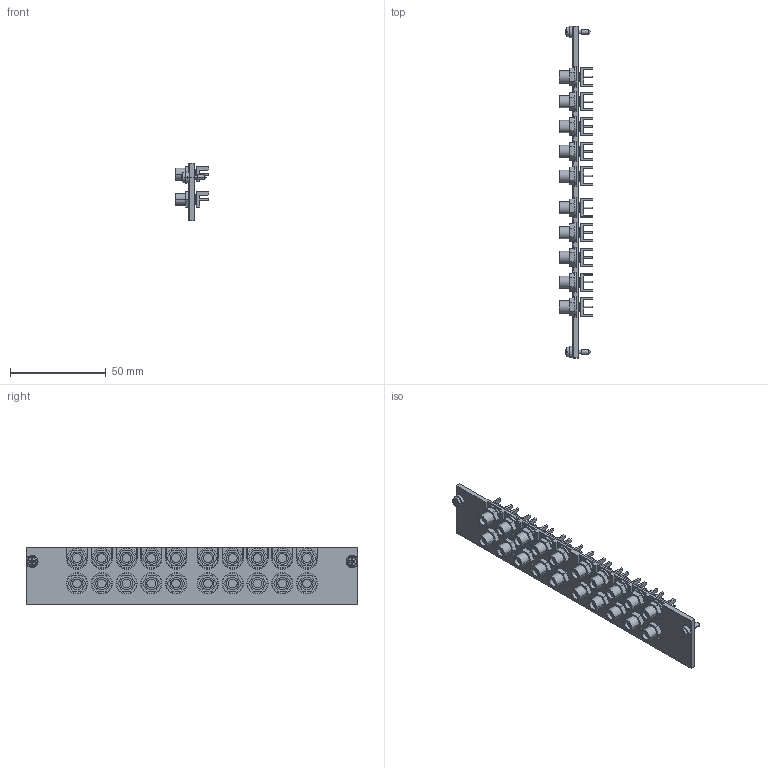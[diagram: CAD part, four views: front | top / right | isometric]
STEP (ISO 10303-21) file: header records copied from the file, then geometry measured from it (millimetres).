
FILE_DESCRIPTION((''),'2;1');
FILE_NAME('CU_SCXI-1195','2009-11-30T',('jjorden'),(''),'PRO/ENGINEER BY PARAMETRIC TECHNOLOGY CORPORATION, 2006080','PRO/ENGINEER BY PARAMETRIC TECHNOLOGY CORPORATION, 2006080','');
FILE_SCHEMA(('CONFIG_CONTROL_DESIGN'));
Length unit declared in the file: inch
Products named in the file (1): CU_SCXI-1195
Bounding box: 17.37 x 173.02 x 30.18 mm (x, y, z)
Volume: 21382.9 mm3; surface area: 24965.7 mm2
Topology: 11 solids, 11 shells, 1351 faces, 3364 edges, 2212 vertices
Faces by surface type: plane 921, cylinder 366, cone 56, torus 4, sphere 4
Entity records: 40190 total; most frequent: CARTESIAN_POINT 7063, DIRECTION 6890, ORIENTED_EDGE 6720, EDGE_CURVE 3360, VECTOR 2500, LINE 2500, VERTEX_POINT 2212, AXIS2_PLACEMENT_3D 2195
